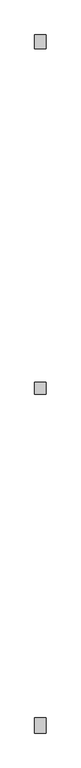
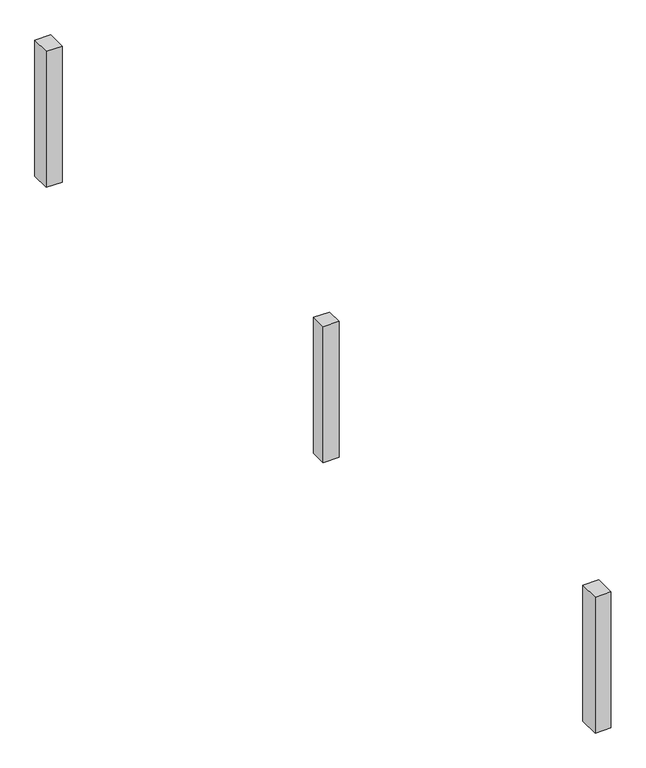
"""IFC4 building model written with IfcOpenShell, lengths in millimetres: proxy geometry, Modelos genéricos 117 : Modelos genéricos 2."""

from ifc_helpers import new_model, si_unit, frame, origin, place, context, project, spatial, polyline, outline, extrude, source, transform, mapped, element, save


def generic_models_9b4db28a(model_context):
    return source(origin(), model_context, "Body", "SweptSolid", [
        extrude(outline(polyline([(-18719.8114524, -6000.2456916), (-18759.8114524, -6000.2456916), (-18759.8114524, -5947.5760681), (-18719.8114524, -5947.5760681), (-18719.8114524, -6000.2456916)])), frame((0.0, 0.0, 900.0), z_axis=(0.0, 0.0, 1.0), x_axis=(1.0, 0.0, 0.0)), (0.0, 0.0, 1.0), 360.0),
        extrude(outline(polyline([(-18719.8114524, -4819.5688467), (-18759.8114524, -4819.5688467), (-18759.8114524, -4778.7332519), (-18719.8114524, -4778.7332519), (-18719.8114524, -4819.5688467)])), frame((0.0, 0.0, 900.0), z_axis=(0.0, 0.0, 1.0), x_axis=(1.0, 0.0, 0.0)), (0.0, 0.0, 1.0), 360.0),
        extrude(outline(polyline([(-18719.8114524, -3616.9963739), (-18759.8114524, -3616.9963739), (-18759.8114524, -3568.2287371), (-18719.8114524, -3568.2287371), (-18719.8114524, -3616.9963739)])), frame((0.0, 0.0, 900.0), z_axis=(0.0, 0.0, 1.0), x_axis=(1.0, 0.0, 0.0)), (0.0, 0.0, 1.0), 360.0),
    ])


if __name__ == "__main__":
    model = new_model("IFC4")
    model_context = context("Model", 3, world=origin())
    ifc_project = project(units=[si_unit("LENGTHUNIT", "METRE", prefix="MILLI")], contexts=[model_context])
    site = spatial("IfcSite", under=ifc_project)
    building = spatial("IfcBuilding", under=site)
    placement = place(None, origin())
    generic_models_shape = generic_models_9b4db28a(model_context)
    element("IfcBuildingElementProxy", 1, Name="Modelos genéricos 117 : Modelos genéricos 2", ObjectType="Modelos genéricos 117 : Modelos genéricos 2", at=placement, inside=building, context=model_context, shape_type="MappedRepresentation", body=[
        mapped(generic_models_shape, transform((0.0, 0.0, 0.0), x_axis=(1.0, 0.0, 0.0), y_axis=(0.0, 1.0, 0.0), z_axis=(0.0, 0.0, 1.0))),
    ])
    save(model, "model.ifc")
